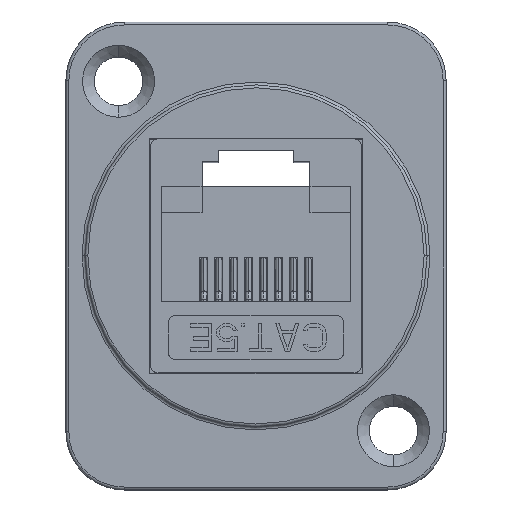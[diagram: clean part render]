
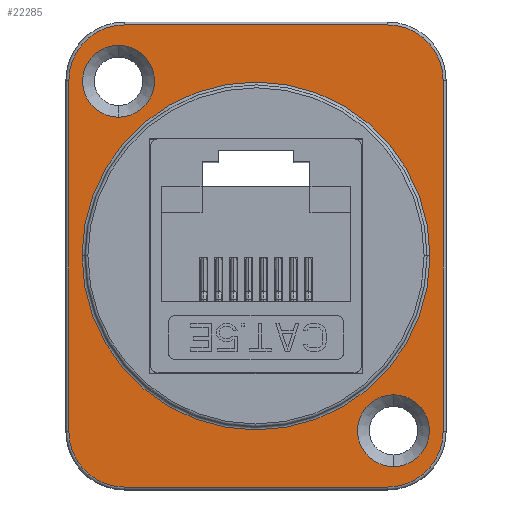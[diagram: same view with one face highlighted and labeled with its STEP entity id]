
A CAD part, top view. The second image highlights one B-rep face of the part: STEP entity #22285.
In plain terms, the highlighted planar face has unit normal (0, 0, 1) as drawn and (0, 1, 0) by its records, which use the part's own axes.
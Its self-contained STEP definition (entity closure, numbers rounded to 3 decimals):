
#21280=CARTESIAN_POINT('',(9.,2.36,-12.));
#21281=DIRECTION('',(0.,-1.,0.));
#21282=DIRECTION('',(0.,0.,-1.));
#21283=AXIS2_PLACEMENT_3D('',#21280,#21281,#21282);
#21285=CARTESIAN_POINT('',(9.,2.36,12.));
#21286=DIRECTION('',(0.,-1.,0.));
#21287=DIRECTION('',(1.,0.,0.));
#21288=AXIS2_PLACEMENT_3D('',#21285,#21286,#21287);
#21290=CARTESIAN_POINT('',(-9.,2.36,12.));
#21291=DIRECTION('',(0.,-1.,0.));
#21292=DIRECTION('',(0.,0.,1.));
#21293=AXIS2_PLACEMENT_3D('',#21290,#21291,#21292);
#21295=CARTESIAN_POINT('',(-9.,2.36,-12.));
#21296=DIRECTION('',(0.,-1.,0.));
#21297=DIRECTION('',(-1.,0.,0.));
#21298=AXIS2_PLACEMENT_3D('',#21295,#21296,#21297);
#21300=CARTESIAN_POINT('',(-9.4,2.36,-11.95));
#21301=DIRECTION('',(0.,1.,0.));
#21302=DIRECTION('',(0.,0.,-1.));
#21303=AXIS2_PLACEMENT_3D('',#21300,#21301,#21302);
#21305=CARTESIAN_POINT('',(-9.4,2.36,-11.95));
#21306=DIRECTION('',(0.,1.,0.));
#21307=DIRECTION('',(0.,0.,1.));
#21308=AXIS2_PLACEMENT_3D('',#21305,#21306,#21307);
#21310=CARTESIAN_POINT('',(9.4,2.36,11.95));
#21311=DIRECTION('',(0.,1.,0.));
#21312=DIRECTION('',(0.,0.,1.));
#21313=AXIS2_PLACEMENT_3D('',#21310,#21311,#21312);
#21315=CARTESIAN_POINT('',(9.4,2.36,11.95));
#21316=DIRECTION('',(0.,1.,0.));
#21317=DIRECTION('',(0.,0.,-1.));
#21318=AXIS2_PLACEMENT_3D('',#21315,#21316,#21317);
#21320=CARTESIAN_POINT('',(0.,2.36,0.));
#21321=DIRECTION('',(0.,1.,0.));
#21322=DIRECTION('',(1.,0.,0.));
#21323=AXIS2_PLACEMENT_3D('',#21320,#21321,#21322);
#21325=CARTESIAN_POINT('',(0.,2.36,0.));
#21326=DIRECTION('',(0.,1.,0.));
#21327=DIRECTION('',(-1.,0.,0.));
#21328=AXIS2_PLACEMENT_3D('',#21325,#21326,#21327);
#21330=DIRECTION('',(0.,0.,-1.));
#21331=VECTOR('',#21330,24.);
#21332=CARTESIAN_POINT('',(12.8,2.36,12.));
#21333=LINE('',#21332,#21331);
#21365=DIRECTION('',(1.,0.,0.));
#21366=VECTOR('',#21365,18.);
#21367=CARTESIAN_POINT('',(-9.,2.36,15.8));
#21368=LINE('',#21367,#21366);
#21400=DIRECTION('',(0.,0.,1.));
#21401=VECTOR('',#21400,24.);
#21402=CARTESIAN_POINT('',(-12.8,2.36,-12.));
#21403=LINE('',#21402,#21401);
#21435=DIRECTION('',(-1.,0.,0.));
#21436=VECTOR('',#21435,18.);
#21437=CARTESIAN_POINT('',(9.,2.36,-15.8));
#21438=LINE('',#21437,#21436);
#21499=CARTESIAN_POINT('',(0.,2.36,0.));
#21500=DIRECTION('',(0.,-1.,0.));
#21501=DIRECTION('',(-1.,0.,0.));
#21502=AXIS2_PLACEMENT_3D('',#21499,#21500,#21501);
#21519=CARTESIAN_POINT('',(0.,2.36,0.));
#21520=DIRECTION('',(0.,-1.,0.));
#21521=DIRECTION('',(1.,0.,0.));
#21522=AXIS2_PLACEMENT_3D('',#21519,#21520,#21521);
#22025=CARTESIAN_POINT('',(11.895,2.36,0.));
#22026=CARTESIAN_POINT('',(-11.895,2.36,-0.071));
#22027=VERTEX_POINT('',#22025);
#22028=VERTEX_POINT('',#22026);
#22029=CARTESIAN_POINT('',(-11.895,2.36,0.));
#22030=VERTEX_POINT('',#22029);
#22031=CARTESIAN_POINT('',(9.,2.36,-15.8));
#22032=CARTESIAN_POINT('',(12.8,2.36,-12.));
#22033=VERTEX_POINT('',#22031);
#22034=VERTEX_POINT('',#22032);
#22035=CARTESIAN_POINT('',(12.8,2.36,12.));
#22036=VERTEX_POINT('',#22035);
#22037=CARTESIAN_POINT('',(9.,2.36,15.8));
#22038=VERTEX_POINT('',#22037);
#22039=CARTESIAN_POINT('',(-9.,2.36,15.8));
#22040=VERTEX_POINT('',#22039);
#22041=CARTESIAN_POINT('',(-12.8,2.36,12.));
#22042=VERTEX_POINT('',#22041);
#22043=CARTESIAN_POINT('',(-12.8,2.36,-12.));
#22044=VERTEX_POINT('',#22043);
#22045=CARTESIAN_POINT('',(-9.,2.36,-15.8));
#22046=VERTEX_POINT('',#22045);
#22047=CARTESIAN_POINT('',(-9.4,2.36,-14.41));
#22048=CARTESIAN_POINT('',(-9.4,2.36,-9.49));
#22049=VERTEX_POINT('',#22047);
#22050=VERTEX_POINT('',#22048);
#22051=CARTESIAN_POINT('',(9.4,2.36,14.41));
#22052=CARTESIAN_POINT('',(9.4,2.36,9.49));
#22053=VERTEX_POINT('',#22051);
#22054=VERTEX_POINT('',#22052);
#22055=CARTESIAN_POINT('',(11.895,2.36,0.071));
#22056=VERTEX_POINT('',#22055);
#22241=CARTESIAN_POINT('',(0.,2.36,0.));
#22242=DIRECTION('',(0.,1.,0.));
#22243=DIRECTION('',(1.,0.,0.));
#22244=AXIS2_PLACEMENT_3D('',#22241,#22242,#22243);
#22245=PLANE('',#22244);
#22246=ORIENTED_EDGE('',*,*,#22231,.T.);
#22248=ORIENTED_EDGE('',*,*,#22247,.F.);
#22250=ORIENTED_EDGE('',*,*,#22249,.T.);
#22252=ORIENTED_EDGE('',*,*,#22251,.F.);
#22254=ORIENTED_EDGE('',*,*,#22253,.T.);
#22256=ORIENTED_EDGE('',*,*,#22255,.F.);
#22258=ORIENTED_EDGE('',*,*,#22257,.T.);
#22260=ORIENTED_EDGE('',*,*,#22259,.F.);
#22261=EDGE_LOOP('',(#22246,#22248,#22250,#22252,#22254,#22256,#22258,#22260));
#22262=FACE_OUTER_BOUND('',#22261,.F.);
#22264=ORIENTED_EDGE('',*,*,#22263,.T.);
#22266=ORIENTED_EDGE('',*,*,#22265,.T.);
#22267=EDGE_LOOP('',(#22264,#22266));
#22268=FACE_BOUND('',#22267,.F.);
#22270=ORIENTED_EDGE('',*,*,#22269,.T.);
#22272=ORIENTED_EDGE('',*,*,#22271,.T.);
#22273=EDGE_LOOP('',(#22270,#22272));
#22274=FACE_BOUND('',#22273,.F.);
#22276=ORIENTED_EDGE('',*,*,#22275,.T.);
#22278=ORIENTED_EDGE('',*,*,#22277,.F.);
#22280=ORIENTED_EDGE('',*,*,#22279,.T.);
#22282=ORIENTED_EDGE('',*,*,#22281,.F.);
#22283=EDGE_LOOP('',(#22276,#22278,#22280,#22282));
#22284=FACE_BOUND('',#22283,.F.);
#22285=ADVANCED_FACE('',(#22262,#22268,#22274,#22284),#22245,.T.);
#21284=CIRCLE('',#21283,3.8);
#21289=CIRCLE('',#21288,3.8);
#21294=CIRCLE('',#21293,3.8);
#21299=CIRCLE('',#21298,3.8);
#21304=CIRCLE('',#21303,2.46);
#21309=CIRCLE('',#21308,2.46);
#21314=CIRCLE('',#21313,2.46);
#21319=CIRCLE('',#21318,2.46);
#21324=CIRCLE('',#21323,11.895);
#21329=CIRCLE('',#21328,11.895);
#21503=CIRCLE('',#21502,11.895);
#21523=CIRCLE('',#21522,11.895);
#22231=EDGE_CURVE('',#22033,#22034,#21284,.T.);
#22247=EDGE_CURVE('',#22036,#22034,#21333,.T.);
#22249=EDGE_CURVE('',#22036,#22038,#21289,.T.);
#22251=EDGE_CURVE('',#22040,#22038,#21368,.T.);
#22253=EDGE_CURVE('',#22040,#22042,#21294,.T.);
#22255=EDGE_CURVE('',#22044,#22042,#21403,.T.);
#22257=EDGE_CURVE('',#22044,#22046,#21299,.T.);
#22259=EDGE_CURVE('',#22033,#22046,#21438,.T.);
#22263=EDGE_CURVE('',#22049,#22050,#21304,.T.);
#22265=EDGE_CURVE('',#22050,#22049,#21309,.T.);
#22269=EDGE_CURVE('',#22053,#22054,#21314,.T.);
#22271=EDGE_CURVE('',#22054,#22053,#21319,.T.);
#22275=EDGE_CURVE('',#22027,#22028,#21324,.T.);
#22277=EDGE_CURVE('',#22030,#22028,#21503,.T.);
#22279=EDGE_CURVE('',#22030,#22056,#21329,.T.);
#22281=EDGE_CURVE('',#22027,#22056,#21523,.T.);
